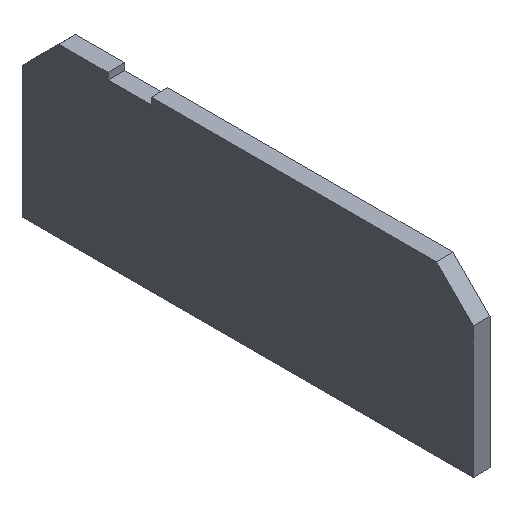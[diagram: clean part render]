
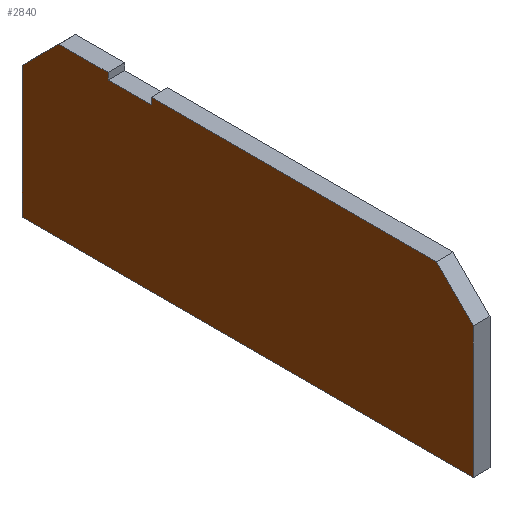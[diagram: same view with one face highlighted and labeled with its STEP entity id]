
A CAD part, isometric view. The second image highlights one B-rep face of the part: STEP entity #2840.
In plain terms, the highlighted planar face has unit normal (-1, 0, 0) as drawn and (0, 0, 1) by its records, which use the part's own axes.
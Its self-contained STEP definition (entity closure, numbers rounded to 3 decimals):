
#1060=CARTESIAN_POINT('',(-19.95,25.05,0.));
#1070=VERTEX_POINT('',#1060);
#1100=CARTESIAN_POINT('',(-19.95,0.,0.));
#1110=DIRECTION('',(0.,-1.,0.));
#1120=VECTOR('',#1110,1.);
#1130=LINE('',#1100,#1120);
#1140=CARTESIAN_POINT('',(-19.95,24.05,0.));
#1150=VERTEX_POINT('',#1140);
#1160=EDGE_CURVE('',#1070,#1150,#1130,.T.);
#1430=CARTESIAN_POINT('',(28.,19.55,0.));
#1440=VERTEX_POINT('',#1430);
#1520=CARTESIAN_POINT('',(28.,0.,0.));
#1530=VERTEX_POINT('',#1520);
#1560=CARTESIAN_POINT('',(28.,19.343,0.));
#1570=DIRECTION('',(0.,-1.,0.));
#1580=VECTOR('',#1570,1.);
#1590=LINE('',#1560,#1580);
#1600=EDGE_CURVE('',#1440,#1530,#1590,.T.);
#1820=CARTESIAN_POINT('',(22.5,25.05,0.));
#1830=VERTEX_POINT('',#1820);
#1860=CARTESIAN_POINT('',(0.,25.05,0.));
#1870=DIRECTION('',(-1.,0.,0.));
#1880=VECTOR('',#1870,1.);
#1890=LINE('',#1860,#1880);
#1900=EDGE_CURVE('',#1830,#1070,#1890,.T.);
#2110=CARTESIAN_POINT('',(22.793,24.757,0.));
#2120=DIRECTION('',(0.707,-0.707,0.));
#2130=VECTOR('',#2120,1.);
#2140=LINE('',#2110,#2130);
#2150=EDGE_CURVE('',#1830,#1440,#2140,.T.);
#2270=CARTESIAN_POINT('',(0.,0.,0.));
#2280=DIRECTION('',(0.,0.,1.));
#2290=DIRECTION('',(1.,0.,0.));
#2300=AXIS2_PLACEMENT_3D('',#2270,#2280,#2290);
#2310=PLANE('',#2300);
#2320=CARTESIAN_POINT('',(0.,24.05,0.));
#2330=DIRECTION('',(-1.,0.,0.));
#2340=VECTOR('',#2330,1.);
#2350=LINE('',#2320,#2340);
#2360=CARTESIAN_POINT('',(-26.35,24.05,0.));
#2370=VERTEX_POINT('',#2360);
#2380=EDGE_CURVE('',#1150,#2370,#2350,.T.);
#2390=ORIENTED_EDGE('',*,*,#2380,.T.);
#2400=ORIENTED_EDGE('',*,*,#1160,.T.);
#2410=ORIENTED_EDGE('',*,*,#1900,.T.);
#2420=ORIENTED_EDGE('',*,*,#2150,.F.);
#2430=ORIENTED_EDGE('',*,*,#1600,.F.);
#2440=CARTESIAN_POINT('',(-38.15,0.,0.));
#2450=DIRECTION('',(1.,0.,0.));
#2460=VECTOR('',#2450,1.);
#2470=LINE('',#2440,#2460);
#2480=CARTESIAN_POINT('',(-39.15,0.,0.));
#2490=VERTEX_POINT('',#2480);
#2500=EDGE_CURVE('',#2490,#1530,#2470,.T.);
#2510=ORIENTED_EDGE('',*,*,#2500,.T.);
#2520=CARTESIAN_POINT('',(-39.15,19.343,0.));
#2530=DIRECTION('',(0.,-1.,0.));
#2540=VECTOR('',#2530,1.);
#2550=LINE('',#2520,#2540);
#2560=CARTESIAN_POINT('',(-39.15,19.55,0.));
#2570=VERTEX_POINT('',#2560);
#2580=EDGE_CURVE('',#2570,#2490,#2550,.T.);
#2590=ORIENTED_EDGE('',*,*,#2580,.T.);
#2600=CARTESIAN_POINT('',(-39.004,19.696,0.));
#2610=DIRECTION('',(0.707,0.707,0.));
#2620=VECTOR('',#2610,1.);
#2630=LINE('',#2600,#2620);
#2640=CARTESIAN_POINT('',(-33.65,25.05,0.));
#2650=VERTEX_POINT('',#2640);
#2660=EDGE_CURVE('',#2570,#2650,#2630,.T.);
#2670=ORIENTED_EDGE('',*,*,#2660,.F.);
#2680=CARTESIAN_POINT('',(0.,25.05,0.));
#2690=DIRECTION('',(1.,0.,0.));
#2700=VECTOR('',#2690,1.);
#2710=LINE('',#2680,#2700);
#2720=CARTESIAN_POINT('',(-26.35,25.05,0.));
#2730=VERTEX_POINT('',#2720);
#2740=EDGE_CURVE('',#2650,#2730,#2710,.T.);
#2750=ORIENTED_EDGE('',*,*,#2740,.F.);
#2760=CARTESIAN_POINT('',(-26.35,0.,0.));
#2770=DIRECTION('',(0.,-1.,0.));
#2780=VECTOR('',#2770,1.);
#2790=LINE('',#2760,#2780);
#2800=EDGE_CURVE('',#2730,#2370,#2790,.T.);
#2810=ORIENTED_EDGE('',*,*,#2800,.F.);
#2820=EDGE_LOOP('',(#2810,#2750,#2670,#2590,#2510,#2430,#2420,#2410,
#2400,#2390));
#2830=FACE_OUTER_BOUND('',#2820,.T.);
#2840=ADVANCED_FACE('',(#2830),#2310,.T.);
